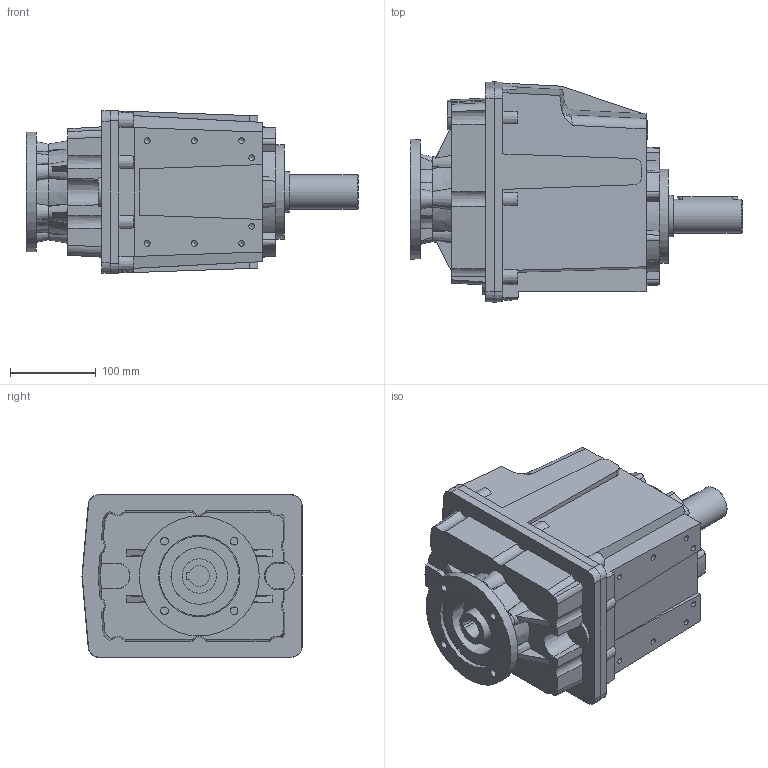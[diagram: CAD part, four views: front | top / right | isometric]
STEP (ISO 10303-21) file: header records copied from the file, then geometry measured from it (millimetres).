
FILE_DESCRIPTION( ( 'Unknown' ), '1' );
FILE_NAME( 'E:/services/configuratordownloads/customers/TRANSTECNO/CMG/download/CBA0AC974272C326CA14F67875C0BD3E/STEP/CBA0AC974272C326CA14F67875C0BD3E.3d.stp', 'Unknown', ( 'Unknown' ), ( 'Unknown' ), 'PSStep 10.1', 'Unknown', ' ' );
FILE_SCHEMA( ( 'AUTOMOTIVE_DESIGN { 1 0 10303 214 1 1 1 1 }' ) );
Length unit declared in the file: millimetre
Products named in the file (1): cassa_CMG05
Bounding box: 387.5 x 256.86 x 189.86 mm (x, y, z)
Volume: 9281973.7 mm3; surface area: 356868.7 mm2
Topology: 1 solids, 7 shells, 338 faces, 915 edges, 603 vertices
Faces by surface type: plane 179, cone 107, cylinder 48, bspline 4
Full cylindrical faces by diameter (mm): 6.647 x8, 6.8 x6, 8.5 x6, 13.835 x1, 40 x3, 48 x1, 67 x1, 85 x1, 95 x1, 110 x1
Entity records: 13324 total; most frequent: CARTESIAN_POINT 2436, DIRECTION 1715, ORIENTED_EDGE 1630, EDGE_CURVE 815, AXIS2_PLACEMENT_3D 660, VERTEX_POINT 580, EDGE_LOOP 415, LINE 395
